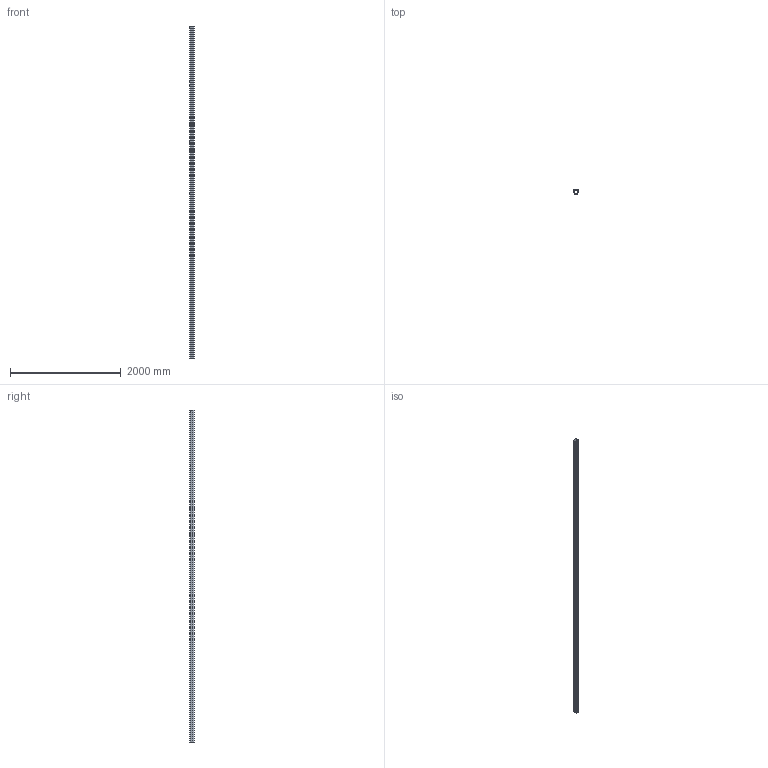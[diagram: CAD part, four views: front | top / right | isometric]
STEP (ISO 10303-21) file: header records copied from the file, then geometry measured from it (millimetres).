
FILE_DESCRIPTION (( 'STEP AP203' ), '1' );
FILE_NAME ('60016-0.STEP', '2024-10-14T11:37:18', ( '' ), ( '' ), 'SwSTEP 2.0', 'SolidWorks 2022', '' );
FILE_SCHEMA (( 'CONFIG_CONTROL_DESIGN' ));
Length unit declared in the file: millimetre
Products named in the file (1): 60016-0
Bounding box: 80 x 74 x 6000 mm (x, y, z)
Volume: 6638215.9 mm3; surface area: 3006530.9 mm2
Topology: 1 solids, 1 shells, 34 faces, 88 edges, 64 vertices
Faces by surface type: plane 26, cylinder 8
Entity records: 1149 total; most frequent: DIRECTION 190, CARTESIAN_POINT 187, ORIENTED_EDGE 176, EDGE_CURVE 88, AXIS2_PLACEMENT_3D 67, VERTEX_POINT 64, VECTOR 56, LINE 56
